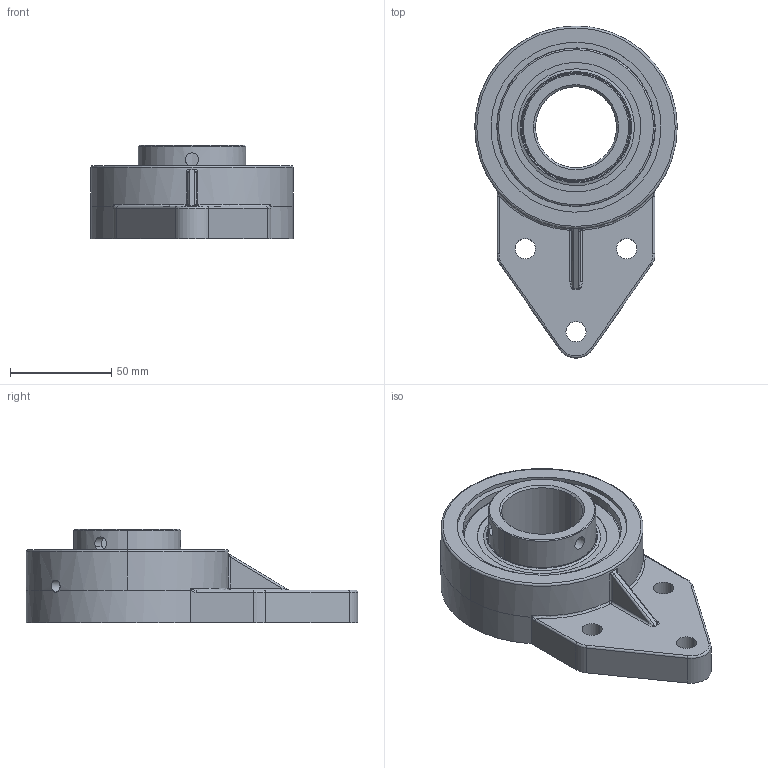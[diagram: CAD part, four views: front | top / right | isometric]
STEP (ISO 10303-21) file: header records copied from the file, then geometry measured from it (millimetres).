
FILE_DESCRIPTION(('CATIA V5 STEP Exchange'),'2;1');
FILE_NAME('X:\CODICI MOVEX\3D per clienti\3D definitivi\Part 800\P82104_01.stp','2016-09-01T07:25:07+00:00',('none'),('none'),'Version 5-6 Release 2012','CATIA V5 STEP AP203','none');
FILE_SCHEMA(('CONFIG_CONTROL_DESIGN'));
Length unit declared in the file: millimetre
Products named in the file (1): P82104
Assembly tree (2 placements, depth 2):
  P82104
    #58
    #2462
Bounding box: 100 x 163.96 x 46 mm (x, y, z)
Volume: 225177.5 mm3; surface area: 71034.5 mm2
Topology: 23 solids, 23 shells, 195 faces, 471 edges, 260 vertices
Faces by surface type: cylinder 73, sphere 46, plane 31, cone 20, torus 19, bspline 6
Entity records: 5695 total; most frequent: CARTESIAN_POINT 1869, ORIENTED_EDGE 794, DIRECTION 592, EDGE_CURVE 397, AXIS2_PLACEMENT_3D 351, VERTEX_POINT 260, EDGE_LOOP 237, CIRCLE 224
